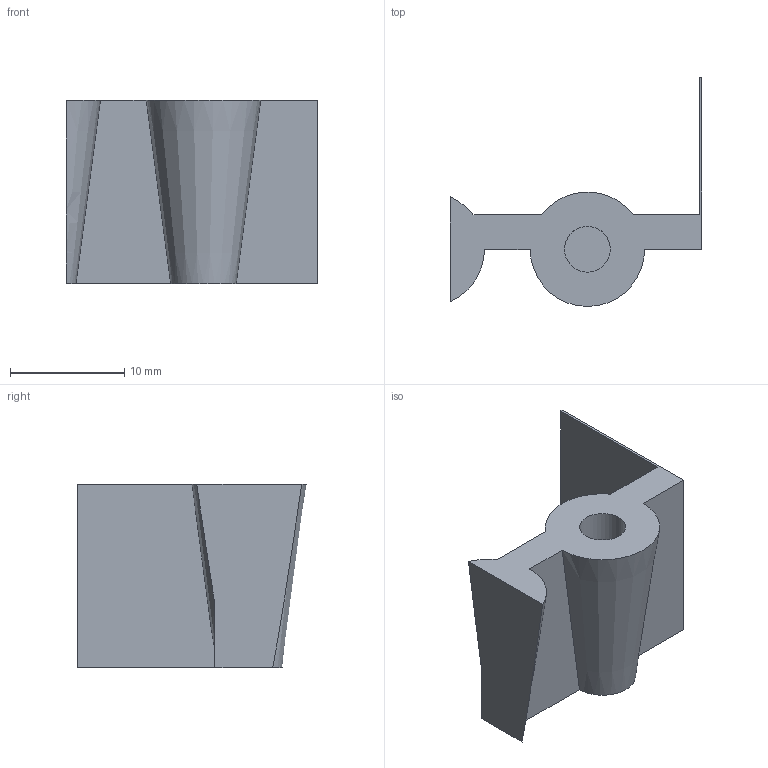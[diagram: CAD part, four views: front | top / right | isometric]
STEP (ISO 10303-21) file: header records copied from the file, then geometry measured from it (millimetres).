
FILE_DESCRIPTION(('FreeCAD Model'),'2;1');
FILE_NAME('Open CASCADE Shape Model','2026-09-11T13:41:27',( '' ),( '' ),'Open CASCADE STEP processor 7.8','FreeCAD','Unknown');
FILE_SCHEMA(('AUTOMOTIVE_DESIGN { 1 0 10303 214 1 1 1 1 }'));
Length unit declared in the file: millimetre
Products named in the file (1): Open CASCADE STEP translator 7.8 4
Bounding box: 22 x 20 x 16 mm (x, y, z)
Volume: 1558.3 mm3; surface area: 1663.8 mm2
Topology: 1 solids, 1 shells, 15 faces, 37 edges, 25 vertices
Faces by surface type: plane 10, cone 4, cylinder 1
Full cylindrical faces by diameter (mm): 4 x1
Entity records: 461 total; most frequent: DIRECTION 81, CARTESIAN_POINT 78, ORIENTED_EDGE 74, EDGE_CURVE 37, AXIS2_PLACEMENT_3D 28, VERTEX_POINT 25, LINE 25, VECTOR 25
